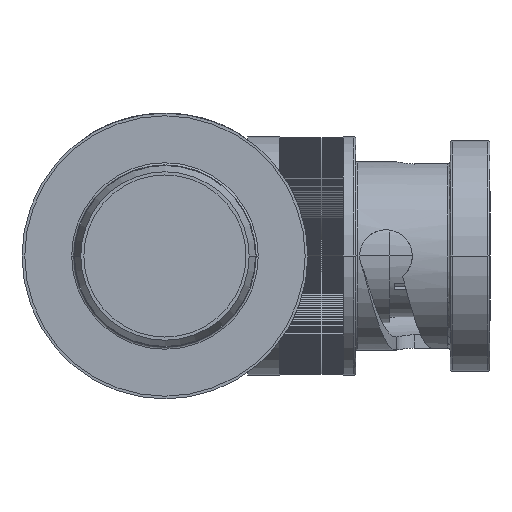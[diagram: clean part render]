
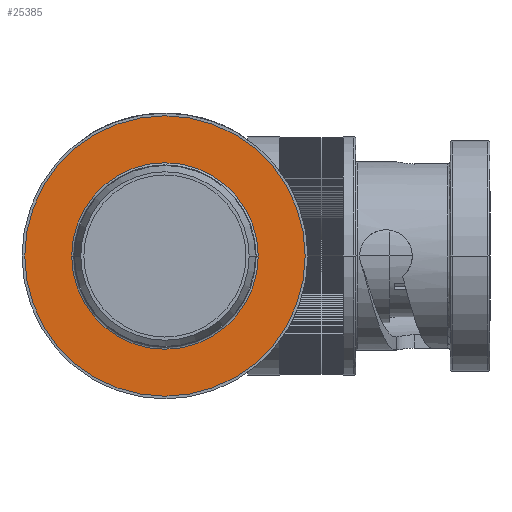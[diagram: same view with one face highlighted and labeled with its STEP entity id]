
A CAD part, left-side view. The second image highlights one B-rep face of the part: STEP entity #25385.
In plain terms, the highlighted planar face has unit normal (-1, 0, 0).
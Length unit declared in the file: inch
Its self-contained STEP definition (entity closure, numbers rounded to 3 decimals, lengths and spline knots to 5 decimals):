
#8410=CARTESIAN_POINT('',(-1.129,0.,0.));
#8411=DIRECTION('',(1.,0.,0.));
#8412=DIRECTION('',(0.,-1.,0.));
#8413=AXIS2_PLACEMENT_3D('',#8410,#8411,#8412);
#8415=CARTESIAN_POINT('',(-1.129,0.,0.));
#8416=DIRECTION('',(1.,0.,0.));
#8417=DIRECTION('',(0.,1.,0.));
#8418=AXIS2_PLACEMENT_3D('',#8415,#8416,#8417);
#8420=CARTESIAN_POINT('',(-1.129,0.,0.));
#8421=DIRECTION('',(1.,0.,0.));
#8422=DIRECTION('',(0.,-1.,0.));
#8423=AXIS2_PLACEMENT_3D('',#8420,#8421,#8422);
#8425=CARTESIAN_POINT('',(-1.129,0.,0.));
#8426=DIRECTION('',(1.,0.,0.));
#8427=DIRECTION('',(0.,1.,0.));
#8428=AXIS2_PLACEMENT_3D('',#8425,#8426,#8427);
#16404=CARTESIAN_POINT('',(-1.129,0.333,0.));
#16405=VERTEX_POINT('',#16404);
#16406=CARTESIAN_POINT('',(-1.129,-0.333,0.));
#16407=VERTEX_POINT('',#16406);
#19818=CARTESIAN_POINT('',(-1.129,-0.2215,0.));
#19819=CARTESIAN_POINT('',(-1.129,0.2215,0.));
#19820=VERTEX_POINT('',#19818);
#19821=VERTEX_POINT('',#19819);
#25370=CARTESIAN_POINT('',(-1.129,0.,0.));
#25371=DIRECTION('',(1.,0.,0.));
#25372=DIRECTION('',(0.,-1.,0.));
#25373=AXIS2_PLACEMENT_3D('',#25370,#25371,#25372);
#25374=PLANE('',#25373);
#25375=ORIENTED_EDGE('',*,*,#25363,.T.);
#25376=ORIENTED_EDGE('',*,*,#25352,.T.);
#25377=EDGE_LOOP('',(#25375,#25376));
#25378=FACE_OUTER_BOUND('',#25377,.F.);
#25380=ORIENTED_EDGE('',*,*,#25379,.F.);
#25382=ORIENTED_EDGE('',*,*,#25381,.F.);
#25383=EDGE_LOOP('',(#25380,#25382));
#25384=FACE_BOUND('',#25383,.F.);
#25385=ADVANCED_FACE('',(#25378,#25384),#25374,.F.);
#8414=CIRCLE('',#8413,0.333);
#8419=CIRCLE('',#8418,0.333);
#8424=CIRCLE('',#8423,0.2215);
#8429=CIRCLE('',#8428,0.2215);
#25352=EDGE_CURVE('',#16405,#16407,#8419,.T.);
#25363=EDGE_CURVE('',#16407,#16405,#8414,.T.);
#25379=EDGE_CURVE('',#19820,#19821,#8424,.T.);
#25381=EDGE_CURVE('',#19821,#19820,#8429,.T.);
